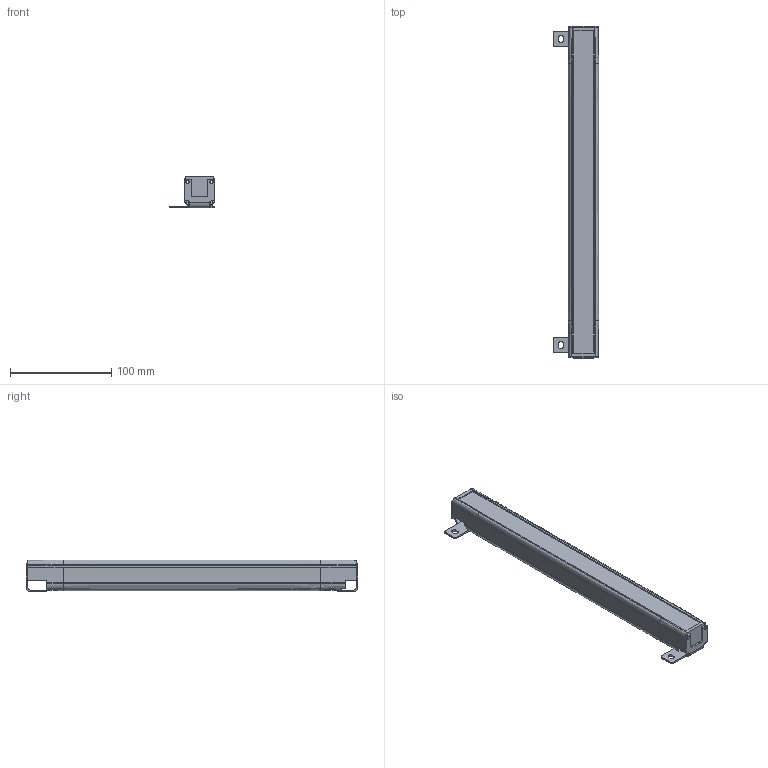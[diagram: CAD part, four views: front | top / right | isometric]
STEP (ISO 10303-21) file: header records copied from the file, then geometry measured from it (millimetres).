
FILE_DESCRIPTION(/* description */ (''),/* implementation_level */ '2;1');
FILE_NAME(/* name */ '1620（30X30）.stp',/* time_stamp */ '2018-12-21T15:01:54+08:00',/* author */ (''),/* organization */ (''),/* preprocessor_version */ 'ST-DEVELOPER v16',/* originating_system */ 'SIEMENS PLM Software NX 10.0',/* authorisation */ '');
FILE_SCHEMA (('AP203_CONFIGURATION_CONTROLLED_3D_DESIGN_OF_MECHANICAL_PARTS_AND_ASSEMBLIES_MIM_LF { 1 0 10303 403 2 1 2}'));
Length unit declared in the file: millimetre
Products named in the file (1): Admi1744A61Braj6
Bounding box: 44.89 x 328.4 x 31.39 mm (x, y, z)
Volume: 101345.4 mm3; surface area: 110779.8 mm2
Topology: 6 solids, 6 shells, 441 faces, 1311 edges, 871 vertices
Faces by surface type: plane 256, cylinder 132, cone 32, bspline 14, extrusion 7
Full cylindrical faces by diameter (mm): 1.5 x2, 3.2 x8, 3.5 x8
Entity records: 15675 total; most frequent: CARTESIAN_POINT 3868, ORIENTED_EDGE 2528, DIRECTION 2314, EDGE_CURVE 1264, VECTOR 856, VERTEX_POINT 855, LINE 849, AXIS2_PLACEMENT_3D 729
